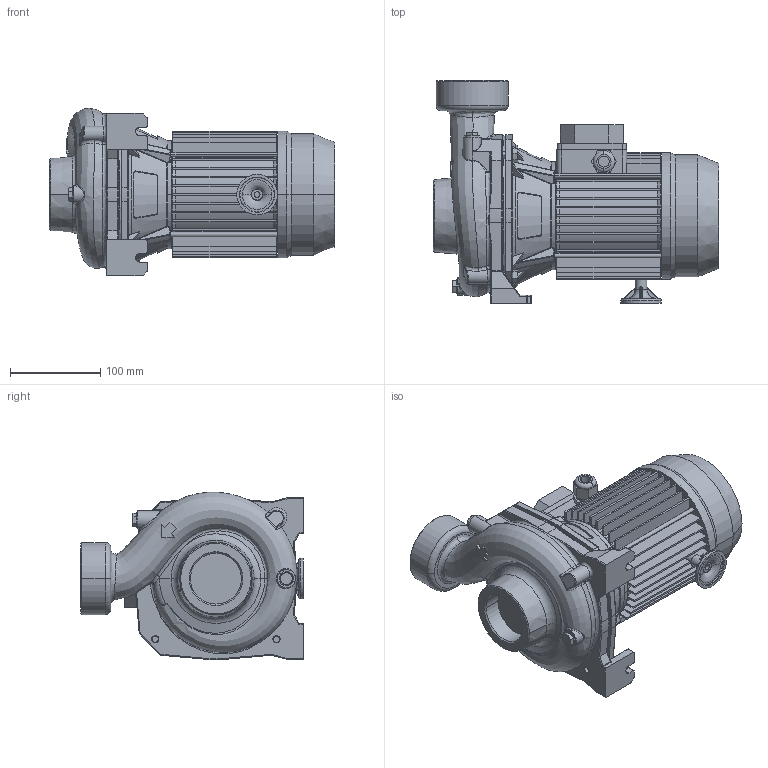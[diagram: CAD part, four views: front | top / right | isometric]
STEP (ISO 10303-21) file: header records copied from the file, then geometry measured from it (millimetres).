
FILE_DESCRIPTION((''),'2;1');
FILE_NAME('CMC_100T_IE2_ASM','2020-05-31T',('rosa'),('"Ebara Pumps Europe +39.444.706811"'),'PRO/ENGINEER BY PARAMETRIC TECHNOLOGY CORPORATION, 2017170','PRO/ENGINEER BY PARAMETRIC TECHNOLOGY CORPORATION, 2017170','');
FILE_SCHEMA(('AUTOMOTIVE_DESIGN { 1 0 10303 214 1 1 1 1 }'));
Products named in the file (6): MEC_71X90_IE2; 80534; 38001; 20506; 72001; CMC_100T_IE2_ASM
Assembly tree (5 placements, depth 2):
  CMC_100T_IE2_ASM
    MEC_71X90_IE2
    80534
    38001
    20506
    72001
Bounding box: 316.3 x 247 x 185.75 mm (x, y, z)
Volume: 3938606.6 mm3; surface area: 549523.2 mm2
Topology: 5 solids, 9 shells, 1213 faces, 2937 edges, 1776 vertices
Faces by surface type: plane 472, cylinder 336, bspline 190, cone 111, torus 73, sphere 31
Entity records: 60763 total; most frequent: CARTESIAN_POINT 23629, ORIENTED_EDGE 5850, DIRECTION 5332, PRESENTATION_STYLE_ASSIGNMENT 2942, STYLED_ITEM 2942, CURVE_STYLE 2933, EDGE_CURVE 2933, AXIS2_PLACEMENT_3D 2039
